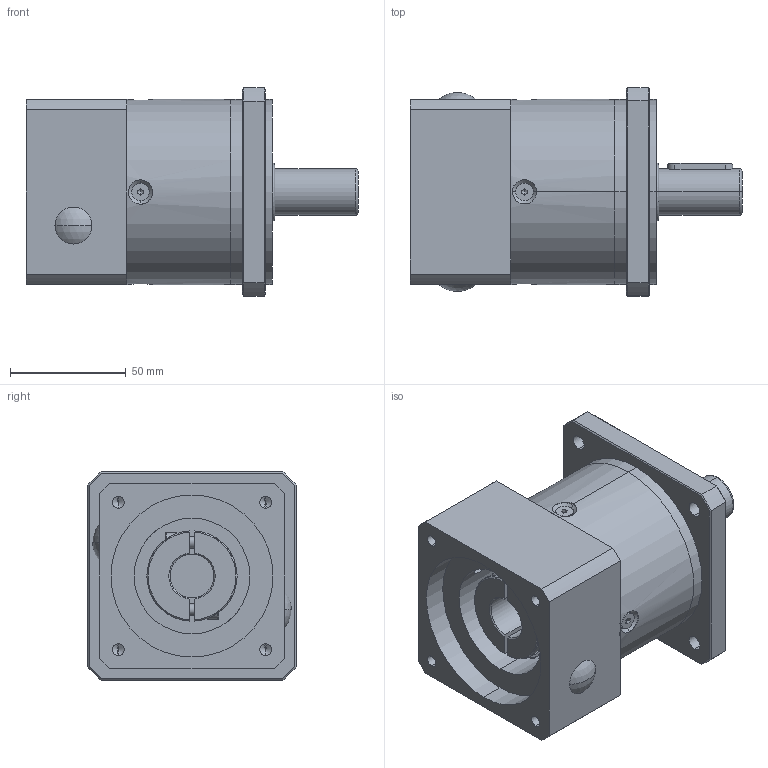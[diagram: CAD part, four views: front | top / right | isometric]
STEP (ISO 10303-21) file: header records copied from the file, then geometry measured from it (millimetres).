
FILE_DESCRIPTION (( 'STEP AP203' ), '1' );
FILE_NAME ('PF80L1-70-19-40-M6-90.STEP', '2022-10-17T07:28:17', ( 'PC' ), ( 'Microsoft' ), 'SwSTEP 2.0', 'SolidWorks 2016', '' );
FILE_SCHEMA (( 'CONFIG_CONTROL_DESIGN' ));
Length unit declared in the file: millimetre
Products named in the file (8): PF80输入端盖-外形70-M6-90; PF80薊粣ん-俋倛19; PF80怀堤傷裔-俋倛; hexagon socket countersunk head screws gb_GB_FASTENER_SCREWS_HSCHS M4X12-N; PF80一级齿圈-外形; PF80黑裔; hexagon socket head cap screws gb_GB_FASTENER_SCREWS_HSHCS M5X16-N; PF80L1-70-19-40-M6-90
Assembly tree (12 placements, depth 2):
  PF80L1-70-19-40-M6-90
    PF80怀堤傷裔-俋倛
    PF80一级齿圈-外形
    PF80输入端盖-外形70-M6-90
    PF80薊粣ん-俋倛19
    hexagon socket countersunk head screws gb_GB_FASTENER_SCREWS_HSCHS M4X12-N  x4
    PF80黑裔  x2
    hexagon socket head cap screws gb_GB_FASTENER_SCREWS_HSHCS M5X16-N  x2
Bounding box: 143.5 x 90 x 90 mm (x, y, z)
Volume: 421354.8 mm3; surface area: 94636.1 mm2
Topology: 13 solids, 13 shells, 379 faces, 888 edges, 537 vertices
Faces by surface type: plane 148, cylinder 130, cone 71, torus 18, sphere 12
Entity records: 9285 total; most frequent: CARTESIAN_POINT 2285, DIRECTION 1331, ORIENTED_EDGE 1194, EDGE_CURVE 597, AXIS2_PLACEMENT_3D 530, VERTEX_POINT 374, EDGE_LOOP 305, LINE 271
